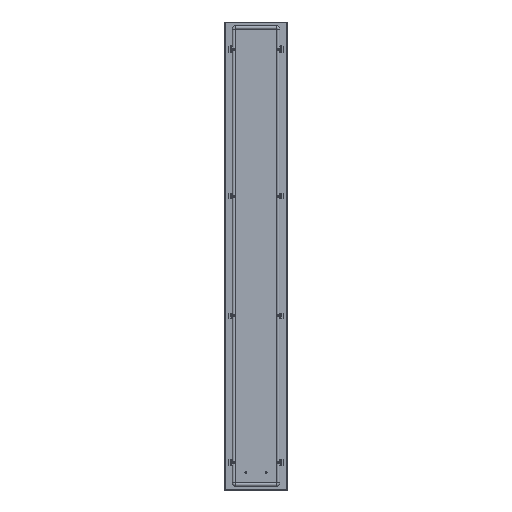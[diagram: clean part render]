
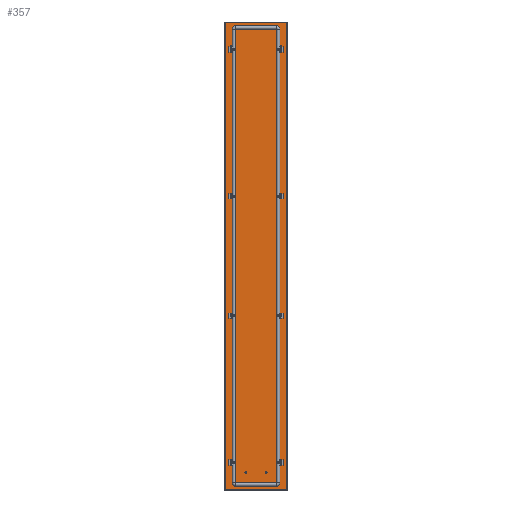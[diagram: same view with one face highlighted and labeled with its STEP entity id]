
A CAD part, top view. The second image highlights one B-rep face of the part: STEP entity #357.
In plain terms, the highlighted planar face has unit normal (0, 0, 1).
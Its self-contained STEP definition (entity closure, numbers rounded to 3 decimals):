
#357 = ADVANCED_FACE('',(#358,#456,#467,#478,#498,#518,#529,#540,#560),
  #580,.F.);
#358 = FACE_BOUND('',#359,.T.);
#359 = EDGE_LOOP('',(#360,#370,#378,#386,#394,#402,#410,#418,#426,#434,
    #442,#450));
#360 = ORIENTED_EDGE('',*,*,#361,.F.);
#361 = EDGE_CURVE('',#362,#364,#366,.T.);
#362 = VERTEX_POINT('',#363);
#363 = CARTESIAN_POINT('',(-145.5,1077.5,0.));
#364 = VERTEX_POINT('',#365);
#365 = CARTESIAN_POINT('',(-145.3,1077.5,0.));
#366 = LINE('',#367,#368);
#367 = CARTESIAN_POINT('',(0.,1077.5,
    0.));
#368 = VECTOR('',#369,1.);
#369 = DIRECTION('',(1.,0.,0.));
#370 = ORIENTED_EDGE('',*,*,#371,.T.);
#371 = EDGE_CURVE('',#362,#372,#374,.T.);
#372 = VERTEX_POINT('',#373);
#373 = CARTESIAN_POINT('',(-145.5,-1077.5,0.));
#374 = LINE('',#375,#376);
#375 = CARTESIAN_POINT('',(-145.5,0.,
    0.));
#376 = VECTOR('',#377,1.);
#377 = DIRECTION('',(0.,-1.,0.));
#378 = ORIENTED_EDGE('',*,*,#379,.T.);
#379 = EDGE_CURVE('',#372,#380,#382,.T.);
#380 = VERTEX_POINT('',#381);
#381 = CARTESIAN_POINT('',(-145.3,-1077.5,0.));
#382 = LINE('',#383,#384);
#383 = CARTESIAN_POINT('',(0.,-1077.5,
    0.));
#384 = VECTOR('',#385,1.);
#385 = DIRECTION('',(1.,-0.,-0.));
#386 = ORIENTED_EDGE('',*,*,#387,.F.);
#387 = EDGE_CURVE('',#388,#380,#390,.T.);
#388 = VERTEX_POINT('',#389);
#389 = CARTESIAN_POINT('',(-145.3,-1076.,0.));
#390 = LINE('',#391,#392);
#391 = CARTESIAN_POINT('',(-145.3,0.,0.)
  );
#392 = VECTOR('',#393,1.);
#393 = DIRECTION('',(0.,-1.,0.));
#394 = ORIENTED_EDGE('',*,*,#395,.T.);
#395 = EDGE_CURVE('',#388,#396,#398,.T.);
#396 = VERTEX_POINT('',#397);
#397 = CARTESIAN_POINT('',(145.3,-1076.,0.));
#398 = LINE('',#399,#400);
#399 = CARTESIAN_POINT('',(0.,-1076.,
    0.));
#400 = VECTOR('',#401,1.);
#401 = DIRECTION('',(1.,-0.,-0.));
#402 = ORIENTED_EDGE('',*,*,#403,.T.);
#403 = EDGE_CURVE('',#396,#404,#406,.T.);
#404 = VERTEX_POINT('',#405);
#405 = CARTESIAN_POINT('',(145.3,-1077.5,0.));
#406 = LINE('',#407,#408);
#407 = CARTESIAN_POINT('',(145.3,-1076.,0.));
#408 = VECTOR('',#409,1.);
#409 = DIRECTION('',(0.,-1.,0.));
#410 = ORIENTED_EDGE('',*,*,#411,.F.);
#411 = EDGE_CURVE('',#412,#404,#414,.T.);
#412 = VERTEX_POINT('',#413);
#413 = CARTESIAN_POINT('',(145.5,-1077.5,0.));
#414 = LINE('',#415,#416);
#415 = CARTESIAN_POINT('',(0.,-1077.5,
    0.));
#416 = VECTOR('',#417,1.);
#417 = DIRECTION('',(-1.,0.,0.));
#418 = ORIENTED_EDGE('',*,*,#419,.T.);
#419 = EDGE_CURVE('',#412,#420,#422,.T.);
#420 = VERTEX_POINT('',#421);
#421 = CARTESIAN_POINT('',(145.5,1077.5,0.));
#422 = LINE('',#423,#424);
#423 = CARTESIAN_POINT('',(145.5,0.,0.));
#424 = VECTOR('',#425,1.);
#425 = DIRECTION('',(0.,1.,0.));
#426 = ORIENTED_EDGE('',*,*,#427,.T.);
#427 = EDGE_CURVE('',#420,#428,#430,.T.);
#428 = VERTEX_POINT('',#429);
#429 = CARTESIAN_POINT('',(145.3,1077.5,0.));
#430 = LINE('',#431,#432);
#431 = CARTESIAN_POINT('',(0.,1077.5,
    0.));
#432 = VECTOR('',#433,1.);
#433 = DIRECTION('',(-1.,-0.,-0.));
#434 = ORIENTED_EDGE('',*,*,#435,.F.);
#435 = EDGE_CURVE('',#436,#428,#438,.T.);
#436 = VERTEX_POINT('',#437);
#437 = CARTESIAN_POINT('',(145.3,1076.,0.));
#438 = LINE('',#439,#440);
#439 = CARTESIAN_POINT('',(145.3,0.,0.)
  );
#440 = VECTOR('',#441,1.);
#441 = DIRECTION('',(0.,1.,0.));
#442 = ORIENTED_EDGE('',*,*,#443,.T.);
#443 = EDGE_CURVE('',#436,#444,#446,.T.);
#444 = VERTEX_POINT('',#445);
#445 = CARTESIAN_POINT('',(-145.3,1076.,0.));
#446 = LINE('',#447,#448);
#447 = CARTESIAN_POINT('',(0.,1076.,
    0.));
#448 = VECTOR('',#449,1.);
#449 = DIRECTION('',(-1.,-0.,-0.));
#450 = ORIENTED_EDGE('',*,*,#451,.T.);
#451 = EDGE_CURVE('',#444,#364,#452,.T.);
#452 = LINE('',#453,#454);
#453 = CARTESIAN_POINT('',(-145.3,1076.,0.));
#454 = VECTOR('',#455,1.);
#455 = DIRECTION('',(0.,1.,0.));
#456 = FACE_BOUND('',#457,.T.);
#457 = EDGE_LOOP('',(#458));
#458 = ORIENTED_EDGE('',*,*,#459,.T.);
#459 = EDGE_CURVE('',#460,#460,#462,.T.);
#460 = VERTEX_POINT('',#461);
#461 = CARTESIAN_POINT('',(-114.5,-270.25,0.));
#462 = CIRCLE('',#463,4.75);
#463 = AXIS2_PLACEMENT_3D('',#464,#465,#466);
#464 = CARTESIAN_POINT('',(-114.5,-275.,0.));
#465 = DIRECTION('',(0.,0.,-1.));
#466 = DIRECTION('',(0.,1.,0.));
#467 = FACE_BOUND('',#468,.T.);
#468 = EDGE_LOOP('',(#469));
#469 = ORIENTED_EDGE('',*,*,#470,.T.);
#470 = EDGE_CURVE('',#471,#471,#473,.T.);
#471 = VERTEX_POINT('',#472);
#472 = CARTESIAN_POINT('',(114.5,-279.75,0.));
#473 = CIRCLE('',#474,4.75);
#474 = AXIS2_PLACEMENT_3D('',#475,#476,#477);
#475 = CARTESIAN_POINT('',(114.5,-275.,0.));
#476 = DIRECTION('',(-0.,0.,-1.));
#477 = DIRECTION('',(0.,-1.,0.));
#478 = FACE_BOUND('',#479,.T.);
#479 = EDGE_LOOP('',(#480,#491));
#480 = ORIENTED_EDGE('',*,*,#481,.F.);
#481 = EDGE_CURVE('',#482,#484,#486,.T.);
#482 = VERTEX_POINT('',#483);
#483 = CARTESIAN_POINT('',(-114.5,954.75,0.));
#484 = VERTEX_POINT('',#485);
#485 = CARTESIAN_POINT('',(-114.5,945.25,0.));
#486 = CIRCLE('',#487,4.75);
#487 = AXIS2_PLACEMENT_3D('',#488,#489,#490);
#488 = CARTESIAN_POINT('',(-114.5,950.,0.));
#489 = DIRECTION('',(0.,0.,1.));
#490 = DIRECTION('',(0.,1.,0.));
#491 = ORIENTED_EDGE('',*,*,#492,.F.);
#492 = EDGE_CURVE('',#484,#482,#493,.T.);
#493 = CIRCLE('',#494,4.75);
#494 = AXIS2_PLACEMENT_3D('',#495,#496,#497);
#495 = CARTESIAN_POINT('',(-114.5,950.,0.));
#496 = DIRECTION('',(0.,0.,1.));
#497 = DIRECTION('',(0.,1.,0.));
#498 = FACE_BOUND('',#499,.T.);
#499 = EDGE_LOOP('',(#500,#511));
#500 = ORIENTED_EDGE('',*,*,#501,.F.);
#501 = EDGE_CURVE('',#502,#504,#506,.T.);
#502 = VERTEX_POINT('',#503);
#503 = CARTESIAN_POINT('',(114.5,945.25,0.));
#504 = VERTEX_POINT('',#505);
#505 = CARTESIAN_POINT('',(114.5,954.75,0.));
#506 = CIRCLE('',#507,4.75);
#507 = AXIS2_PLACEMENT_3D('',#508,#509,#510);
#508 = CARTESIAN_POINT('',(114.5,950.,0.));
#509 = DIRECTION('',(0.,0.,1.));
#510 = DIRECTION('',(0.,-1.,0.));
#511 = ORIENTED_EDGE('',*,*,#512,.F.);
#512 = EDGE_CURVE('',#504,#502,#513,.T.);
#513 = CIRCLE('',#514,4.75);
#514 = AXIS2_PLACEMENT_3D('',#515,#516,#517);
#515 = CARTESIAN_POINT('',(114.5,950.,0.));
#516 = DIRECTION('',(0.,0.,1.));
#517 = DIRECTION('',(0.,-1.,0.));
#518 = FACE_BOUND('',#519,.T.);
#519 = EDGE_LOOP('',(#520));
#520 = ORIENTED_EDGE('',*,*,#521,.T.);
#521 = EDGE_CURVE('',#522,#522,#524,.T.);
#522 = VERTEX_POINT('',#523);
#523 = CARTESIAN_POINT('',(-114.5,-945.25,0.));
#524 = CIRCLE('',#525,4.75);
#525 = AXIS2_PLACEMENT_3D('',#526,#527,#528);
#526 = CARTESIAN_POINT('',(-114.5,-950.,0.));
#527 = DIRECTION('',(0.,0.,-1.));
#528 = DIRECTION('',(0.,1.,0.));
#529 = FACE_BOUND('',#530,.T.);
#530 = EDGE_LOOP('',(#531));
#531 = ORIENTED_EDGE('',*,*,#532,.T.);
#532 = EDGE_CURVE('',#533,#533,#535,.T.);
#533 = VERTEX_POINT('',#534);
#534 = CARTESIAN_POINT('',(114.5,-954.75,0.));
#535 = CIRCLE('',#536,4.75);
#536 = AXIS2_PLACEMENT_3D('',#537,#538,#539);
#537 = CARTESIAN_POINT('',(114.5,-950.,0.));
#538 = DIRECTION('',(-0.,0.,-1.));
#539 = DIRECTION('',(0.,-1.,0.));
#540 = FACE_BOUND('',#541,.T.);
#541 = EDGE_LOOP('',(#542,#553));
#542 = ORIENTED_EDGE('',*,*,#543,.F.);
#543 = EDGE_CURVE('',#544,#546,#548,.T.);
#544 = VERTEX_POINT('',#545);
#545 = CARTESIAN_POINT('',(114.5,270.25,0.));
#546 = VERTEX_POINT('',#547);
#547 = CARTESIAN_POINT('',(114.5,279.75,0.));
#548 = CIRCLE('',#549,4.75);
#549 = AXIS2_PLACEMENT_3D('',#550,#551,#552);
#550 = CARTESIAN_POINT('',(114.5,275.,0.));
#551 = DIRECTION('',(0.,0.,1.));
#552 = DIRECTION('',(0.,-1.,0.));
#553 = ORIENTED_EDGE('',*,*,#554,.F.);
#554 = EDGE_CURVE('',#546,#544,#555,.T.);
#555 = CIRCLE('',#556,4.75);
#556 = AXIS2_PLACEMENT_3D('',#557,#558,#559);
#557 = CARTESIAN_POINT('',(114.5,275.,0.));
#558 = DIRECTION('',(0.,0.,1.));
#559 = DIRECTION('',(0.,-1.,0.));
#560 = FACE_BOUND('',#561,.T.);
#561 = EDGE_LOOP('',(#562,#573));
#562 = ORIENTED_EDGE('',*,*,#563,.F.);
#563 = EDGE_CURVE('',#564,#566,#568,.T.);
#564 = VERTEX_POINT('',#565);
#565 = CARTESIAN_POINT('',(-114.5,279.75,0.));
#566 = VERTEX_POINT('',#567);
#567 = CARTESIAN_POINT('',(-114.5,270.25,0.));
#568 = CIRCLE('',#569,4.75);
#569 = AXIS2_PLACEMENT_3D('',#570,#571,#572);
#570 = CARTESIAN_POINT('',(-114.5,275.,0.));
#571 = DIRECTION('',(0.,0.,1.));
#572 = DIRECTION('',(0.,1.,0.));
#573 = ORIENTED_EDGE('',*,*,#574,.F.);
#574 = EDGE_CURVE('',#566,#564,#575,.T.);
#575 = CIRCLE('',#576,4.75);
#576 = AXIS2_PLACEMENT_3D('',#577,#578,#579);
#577 = CARTESIAN_POINT('',(-114.5,275.,0.));
#578 = DIRECTION('',(0.,0.,1.));
#579 = DIRECTION('',(0.,1.,0.));
#580 = PLANE('',#581);
#581 = AXIS2_PLACEMENT_3D('',#582,#583,#584);
#582 = CARTESIAN_POINT('',(0.,0.,
    0.));
#583 = DIRECTION('',(-0.,0.,-1.));
#584 = DIRECTION('',(-1.,0.,0.));
